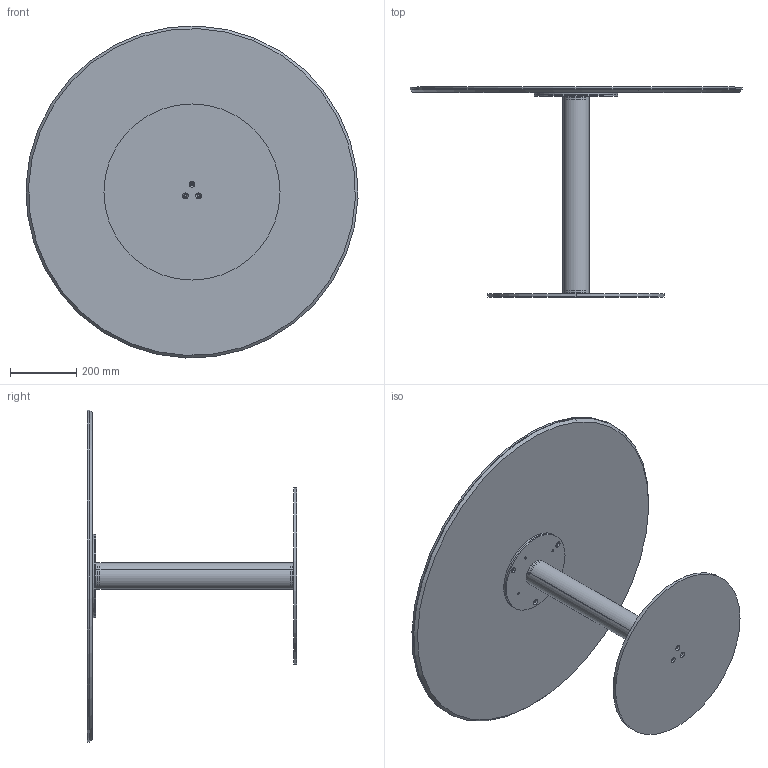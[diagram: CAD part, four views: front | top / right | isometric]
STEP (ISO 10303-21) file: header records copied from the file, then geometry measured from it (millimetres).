
FILE_DESCRIPTION (( 'STEP AP203' ), '1' );
FILE_NAME ('CB35C.STEP', '2024-08-08T08:41:18', ( '' ), ( '' ), 'SwSTEP 2.0', 'SolidWorks 2022', '' );
FILE_SCHEMA (( 'CONFIG_CONTROL_DESIGN' ));
Length unit declared in the file: millimetre
Products named in the file (11): M8xXXmm_M8X35mm; CBS000000BAS-00-BISTRO PIASTRA INFERIORE_D.530; KXXCXX-00-Piani Rotondi in ceramica CON PIASTRA_K03P PIANO CERAMICA D.100cm; CBS200000PST-00-CONTROPIASTRA PER PIASTRA D.25cm GREZZO_250; K1XCMXX-00-Piani Rotondi in ceramica_D.1000; P0000003-00-STAFFA DI FISSAGGIO DIAMETRO 250_P0000003-250mm normale; CB35C; P0000005-00-FILETTO M24 CON FORO H.20mm; CBS000001COL-00-CILINDRO BISTRO COLONNA H63; CBS000001COL_01-00-CILINDRO BISTRO TUBO H63; CBS000001COL_02-00-CILINDRO BISTRO PIASTRA M8
Assembly tree (11 placements, depth 3):
  CB35C
    CBS000001COL-00-CILINDRO BISTRO COLONNA H63
      CBS000001COL_01-00-CILINDRO BISTRO TUBO H63
      CBS000001COL_02-00-CILINDRO BISTRO PIASTRA M8  x2
    CBS000000BAS-00-BISTRO PIASTRA INFERIORE_D.530
    CBS200000PST-00-CONTROPIASTRA PER PIASTRA D.25cm GREZZO_250
    KXXCXX-00-Piani Rotondi in ceramica CON PIASTRA_K03P PIANO CERAMICA D.100cm
      K1XCMXX-00-Piani Rotondi in ceramica_D.1000
      P0000003-00-STAFFA DI FISSAGGIO DIAMETRO 250_P0000003-250mm normale
      M8xXXmm_M8X35mm
      P0000005-00-FILETTO M24 CON FORO H.20mm
Bounding box: 999.3 x 632 x 999.3 mm (x, y, z)
Volume: 15548032.3 mm3; surface area: 4158342.4 mm2
Topology: 10 solids, 10 shells, 171 faces, 404 edges, 252 vertices
Faces by surface type: cylinder 91, cone 41, plane 32, torus 4, bspline 3
Entity records: 8171 total; most frequent: CARTESIAN_POINT 3211, DIRECTION 841, ORIENTED_EDGE 756, EDGE_CURVE 378, AXIS2_PLACEMENT_3D 356, VERTEX_POINT 236, EDGE_LOOP 208, CIRCLE 182
